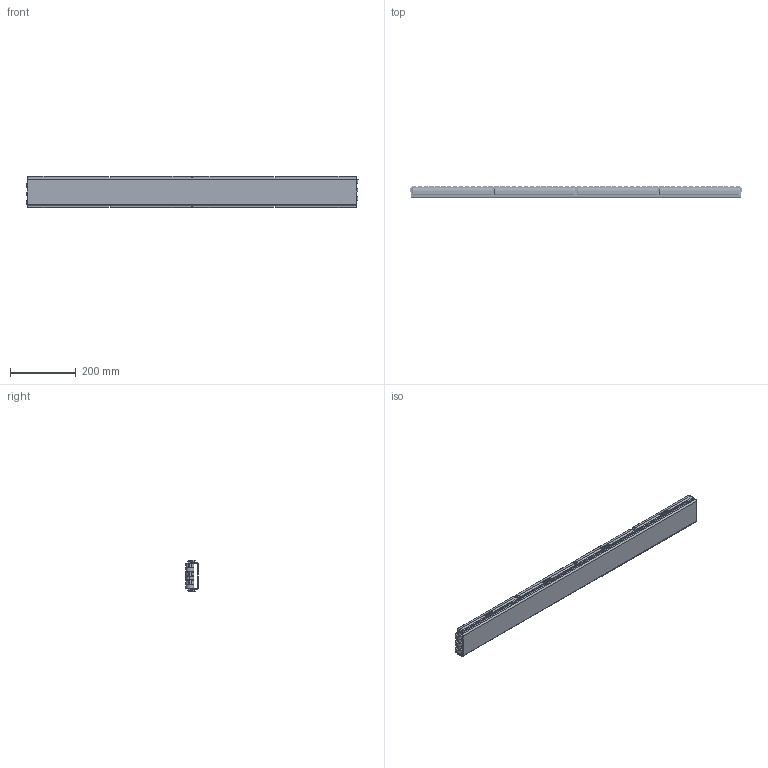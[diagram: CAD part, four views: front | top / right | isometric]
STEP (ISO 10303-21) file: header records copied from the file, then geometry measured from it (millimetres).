
FILE_DESCRIPTION(('STEP AP214'),'1');
FILE_NAME('P35501_01','2017-01-02T07:46:39',('dentellad'),(' '),'Spatial InterOp 3D',' ',' ');
FILE_SCHEMA(('automotive_design'));
Length unit declared in the file: millimetre
Products named in the file (5): 1; 2; 3; 4; 5
Bounding box: 1006.16 x 37.25 x 96 mm (x, y, z)
Volume: 1590653.8 mm3; surface area: 693546.6 mm2
Topology: 5 solids, 5 shells, 5190 faces, 15300 edges, 10416 vertices
Faces by surface type: plane 4058, cylinder 972, bspline 144, torus 16
Entity records: 293772 total; most frequent: CARTESIAN_POINT 46055, ORIENTED_EDGE 30600, DIRECTION 24058, STYLED_ITEM 19711, PRESENTATION_STYLE_ASSIGNMENT 19711, COLOUR_RGB 19711, EDGE_CURVE 15300, CURVE_STYLE 14516
